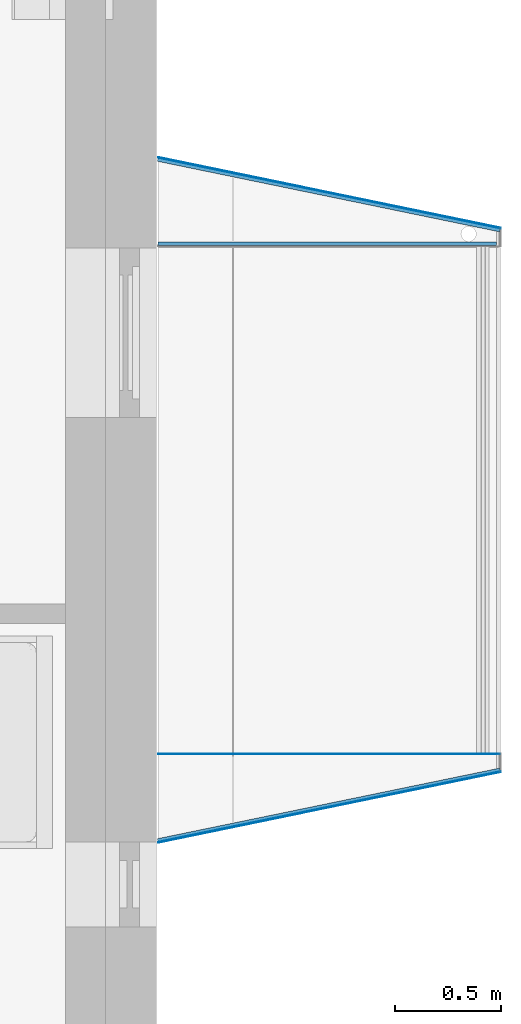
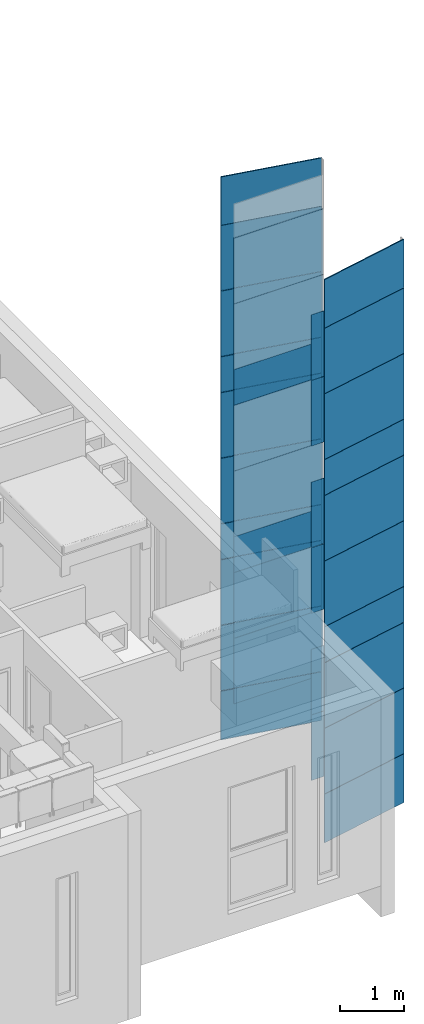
# One storey, part 12 of 125: 54 building element parts, 4 elements without a shape of their own.
"""IFC2X3 building model written with IfcOpenShell, lengths in millimetres."""

from ifc_helpers import new_model, entity, si_unit, converted_unit, direction, frame, frame_2d, origin, place, context, subcontext, project, spatial, polyline, rectangle, outline, extrude, material, type_object, element, aggregate, save


model = new_model("IFC2X3")

# Units and contexts
model_context = context("Model", 3, precision=0.01, world=origin(), true_north=direction((6.123233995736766e-17, 1.0)))
plan_context = context("Plan", 3, precision=0.01, world=origin(), true_north=direction((6.123233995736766e-17, 1.0)))
body_context = subcontext(model_context, "Body", "Model", "MODEL_VIEW")
ifc_project = project(units=[si_unit("LENGTHUNIT", "METRE", prefix="MILLI"), converted_unit("PLANEANGLEUNIT", "DEGREE", entity("IfcPlaneAngleMeasure", 0.017453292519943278), si_unit("PLANEANGLEUNIT", "RADIAN"), dimensions=[0, 0, 0, 0, 0, 0, 0]), si_unit("AREAUNIT", "SQUARE_METRE")], contexts=[model_context, plan_context])

# Site, building, storey
site_placement = place(None, origin())
site = spatial("IfcSite", under=ifc_project, at=site_placement, Name="Default", CompositionType="ELEMENT")
building_placement = place(site_placement, origin())
building = spatial("IfcBuilding", under=site, at=building_placement, CompositionType="ELEMENT")
storey_placement = place(building_placement, frame((0.0, 0.0, 3125.0)))
storey = spatial("IfcBuildingStorey", under=building, at=storey_placement, Name="2K", CompositionType="ELEMENT", Elevation=3125.0)

# Wall, building element parts
wall_type = type_object("IfcWallType", Name="Basic Wall:VS-komposiit", PredefinedType="STANDARD")
wall_1_placement = place(storey_placement, frame((17335.980173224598, 5767.4921026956, -1010.0), z_axis=(0.0, 0.0, 1.0), x_axis=(0.9793890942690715, -0.20198267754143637, 0.0)))
wall_1 = element("IfcWall", 1, at=wall_1_placement, inside=storey, type_object=wall_type, Name="Basic Wall:VS-komposiit", ObjectType="Basic Wall:VS-komposiit")
ifc_material_1 = material(Name="_K. Välisviimistlus. Alumiinium-komposiitplaat")
building_element_part_1_placement = place(wall_1_placement, origin())
building_element_part_1 = element("IfcBuildingElementPart", 2, at=building_element_part_1_placement, material=ifc_material_1, Name="Part", context=body_context, shape_type="SweptSolid", body=[
    extrude(outline(polyline([(-168.51404487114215, -807.2019826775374), (-164.4298662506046, -807.2019826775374), (168.4307337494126, 806.7980173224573), (164.5131773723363, 807.6059480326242), (-168.51404487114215, -807.2019826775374)])), frame((824.1892700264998, 8.0, 0.0), z_axis=(0.0, 0.0, 1.0), x_axis=(-0.20198267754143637, 0.9793890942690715, 0.0)), (0.0, 0.0, 1.0), 922.4999999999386),
])
ifc_material_2 = material(Name="_K. Õhk. Roov. Fassaadikatte alusroov. Horisontaalne. 25 mm")
building_element_part_2_placement = place(wall_1_placement, origin())
building_element_part_2 = element("IfcBuildingElementPart", 3, at=building_element_part_2_placement, material=ifc_material_2, Name="Part", context=body_context, shape_type="SweptSolid", body=[
    extrude(outline(polyline([(-174.43612393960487, -806.2118960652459), (-158.09940945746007, -806.2118960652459), (174.10287945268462, 804.5960346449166), (158.43265394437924, 807.8277574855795), (-174.43612393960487, -806.2118960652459)])), frame((823.1783473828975, -2.0, 0.0), z_axis=(0.0, 0.0, 1.0), x_axis=(-0.20198267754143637, 0.9793890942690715, 0.0)), (0.0, 0.0, 1.0), 922.4999999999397),
])
building_element_part_3_placement = place(wall_1_placement, origin())
building_element_part_3 = element("IfcBuildingElementPart", 4, at=building_element_part_3_placement, material=ifc_material_2, Name="Part", context=body_context, shape_type="SweptSolid", body=[
    extrude(outline(polyline([(-174.43612393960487, -806.2118960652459), (-158.09940945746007, -806.2118960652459), (174.10287945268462, 804.5960346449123), (158.43265394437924, 807.8277574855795), (-174.43612393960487, -806.2118960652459)])), frame((823.1783473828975, -2.0, 8512.499999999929), z_axis=(0.0, 0.0, 1.0), x_axis=(-0.20198267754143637, 0.9793890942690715, 0.0)), (0.0, 0.0, 1.0), 1240.0000000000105),
])
building_element_part_4_placement = place(wall_1_placement, origin())
building_element_part_4 = element("IfcBuildingElementPart", 5, at=building_element_part_4_placement, material=ifc_material_2, Name="Part", context=body_context, shape_type="SweptSolid", body=[
    extrude(outline(polyline([(-174.43612393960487, -806.2118960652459), (-158.09940945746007, -806.2118960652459), (174.10287945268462, 804.5960346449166), (158.43265394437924, 807.8277574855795), (-174.43612393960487, -806.2118960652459)])), frame((823.1783473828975, -2.0, 9757.499999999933), z_axis=(0.0, 0.0, 1.0), x_axis=(-0.20198267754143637, 0.9793890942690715, 0.0)), (0.0, 0.0, 1.0), 917.5000000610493),
])
building_element_part_5_placement = place(wall_1_placement, origin())
building_element_part_5 = element("IfcBuildingElementPart", 6, at=building_element_part_5_placement, material=ifc_material_2, Name="Part", context=body_context, shape_type="SweptSolid", body=[
    extrude(outline(polyline([(-174.43612393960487, -806.2118960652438), (-158.09940945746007, -806.2118960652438), (174.10287945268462, 804.5960346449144), (158.43265394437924, 807.8277574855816), (-174.43612393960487, -806.2118960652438)])), frame((823.1783473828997, -2.0, 6587.499999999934), z_axis=(0.0, 0.0, 1.0), x_axis=(-0.20198267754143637, 0.9793890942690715, 0.0)), (0.0, 0.0, 1.0), 675.0000000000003),
])
building_element_part_6_placement = place(wall_1_placement, origin())
building_element_part_6 = element("IfcBuildingElementPart", 7, at=building_element_part_6_placement, material=ifc_material_2, Name="Part", context=body_context, shape_type="SweptSolid", body=[
    extrude(outline(polyline([(-174.43612393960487, -806.2118960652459), (-158.09940945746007, -806.2118960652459), (174.10287945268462, 804.5960346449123), (158.43265394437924, 807.8277574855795), (-174.43612393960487, -806.2118960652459)])), frame((823.1783473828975, -2.0, 7267.499999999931), z_axis=(0.0, 0.0, 1.0), x_axis=(-0.20198267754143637, 0.9793890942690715, 0.0)), (0.0, 0.0, 1.0), 1240.0000000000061),
])
building_element_part_7_placement = place(wall_1_placement, origin())
building_element_part_7 = element("IfcBuildingElementPart", 8, at=building_element_part_7_placement, material=ifc_material_2, Name="Part", context=body_context, shape_type="SweptSolid", body=[
    extrude(outline(polyline([(-174.43612393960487, -806.2118960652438), (-158.099409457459, -806.2118960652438), (174.10287945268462, 804.5960346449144), (158.43265394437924, 807.8277574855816), (-174.43612393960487, -806.2118960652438)])), frame((823.1783473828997, -2.0, 5342.499999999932), z_axis=(0.0, 0.0, 1.0), x_axis=(-0.20198267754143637, 0.9793890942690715, 0.0)), (0.0, 0.0, 1.0), 1240.000000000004),
])
building_element_part_8_placement = place(wall_1_placement, origin())
building_element_part_8 = element("IfcBuildingElementPart", 9, at=building_element_part_8_placement, material=ifc_material_2, Name="Part", context=body_context, shape_type="SweptSolid", body=[
    extrude(outline(polyline([(-174.43612393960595, -806.2118960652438), (-158.09940945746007, -806.2118960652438), (174.10287945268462, 804.5960346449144), (158.43265394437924, 807.8277574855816), (-174.43612393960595, -806.2118960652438)])), frame((823.1783473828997, -2.0, 927.4999999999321), z_axis=(0.0, 0.0, 1.0), x_axis=(-0.20198267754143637, 0.9793890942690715, 0.0)), (0.0, 0.0, 1.0), 1240.0000000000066),
])
building_element_part_9_placement = place(wall_1_placement, origin())
building_element_part_9 = element("IfcBuildingElementPart", 10, at=building_element_part_9_placement, material=ifc_material_2, Name="Part", context=body_context, shape_type="SweptSolid", body=[
    extrude(outline(polyline([(-174.43612393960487, -806.2118960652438), (-158.09940945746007, -806.2118960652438), (174.10287945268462, 804.5960346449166), (158.43265394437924, 807.8277574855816), (-174.43612393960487, -806.2118960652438)])), frame((823.1783473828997, -2.0, 2172.499999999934), z_axis=(0.0, 0.0, 1.0), x_axis=(-0.20198267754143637, 0.9793890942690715, 0.0)), (0.0, 0.0, 1.0), 1240.000000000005),
])
building_element_part_10_placement = place(wall_1_placement, origin())
building_element_part_10 = element("IfcBuildingElementPart", 11, at=building_element_part_10_placement, material=ifc_material_2, Name="Part", context=body_context, shape_type="SweptSolid", body=[
    extrude(outline(polyline([(-174.43612393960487, -806.2118960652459), (-158.09940945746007, -806.2118960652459), (174.10287945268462, 804.5960346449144), (158.43265394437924, 807.8277574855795), (-174.43612393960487, -806.2118960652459)])), frame((823.1783473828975, -2.0, 4097.499999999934), z_axis=(0.0, 0.0, 1.0), x_axis=(-0.20198267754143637, 0.9793890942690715, 0.0)), (0.0, 0.0, 1.0), 1240.000000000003),
])
building_element_part_11_placement = place(wall_1_placement, origin())
building_element_part_11 = element("IfcBuildingElementPart", 12, at=building_element_part_11_placement, material=ifc_material_2, Name="Part", context=body_context, shape_type="SweptSolid", body=[
    extrude(outline(polyline([(-174.43612393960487, -806.2118960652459), (-158.09940945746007, -806.2118960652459), (174.10287945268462, 804.5960346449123), (158.43265394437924, 807.8277574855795), (-174.43612393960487, -806.2118960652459)])), frame((823.1783473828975, -2.0, 3417.4999999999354), z_axis=(0.0, 0.0, 1.0), x_axis=(-0.20198267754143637, 0.9793890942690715, 0.0)), (0.0, 0.0, 1.0), 675.0000000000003),
])
building_element_part_12_placement = place(wall_1_placement, origin())
building_element_part_12 = element("IfcBuildingElementPart", 13, at=building_element_part_12_placement, material=ifc_material_1, Name="Part", context=body_context, shape_type="SweptSolid", body=[
    extrude(outline(polyline([(-168.51404487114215, -807.2019826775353), (-164.4298662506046, -807.2019826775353), (168.4307337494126, 806.7980173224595), (164.51317737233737, 807.6059480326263), (-168.51404487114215, -807.2019826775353)])), frame((824.189270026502, 8.0, 8512.499999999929), z_axis=(0.0, 0.0, 1.0), x_axis=(-0.20198267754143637, 0.9793890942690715, 0.0)), (0.0, 0.0, 1.0), 1240.0000000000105),
])
building_element_part_13_placement = place(wall_1_placement, origin())
building_element_part_13 = element("IfcBuildingElementPart", 14, at=building_element_part_13_placement, material=ifc_material_1, Name="Part", context=body_context, shape_type="SweptSolid", body=[
    extrude(outline(polyline([(-168.51404487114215, -807.2019826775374), (-164.4298662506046, -807.2019826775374), (168.4307337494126, 806.7980173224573), (164.5131773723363, 807.6059480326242), (-168.51404487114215, -807.2019826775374)])), frame((824.1892700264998, 8.0, 9757.499999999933), z_axis=(0.0, 0.0, 1.0), x_axis=(-0.20198267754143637, 0.9793890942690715, 0.0)), (0.0, 0.0, 1.0), 917.5000000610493),
])
building_element_part_14_placement = place(wall_1_placement, origin())
building_element_part_14 = element("IfcBuildingElementPart", 15, at=building_element_part_14_placement, material=ifc_material_1, Name="Part", context=body_context, shape_type="SweptSolid", body=[
    extrude(outline(polyline([(-168.51404487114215, -807.2019826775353), (-164.4298662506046, -807.2019826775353), (168.43073374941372, 806.7980173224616), (164.51317737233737, 807.6059480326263), (-168.51404487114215, -807.2019826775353)])), frame((824.189270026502, 8.0, 6587.499999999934), z_axis=(0.0, 0.0, 1.0), x_axis=(-0.20198267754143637, 0.9793890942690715, 0.0)), (0.0, 0.0, 1.0), 675.0000000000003),
])
building_element_part_15_placement = place(wall_1_placement, origin())
building_element_part_15 = element("IfcBuildingElementPart", 16, at=building_element_part_15_placement, material=ifc_material_1, Name="Part", context=body_context, shape_type="SweptSolid", body=[
    extrude(outline(polyline([(-168.51404487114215, -807.2019826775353), (-164.4298662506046, -807.2019826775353), (168.4307337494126, 806.7980173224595), (164.51317737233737, 807.6059480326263), (-168.51404487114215, -807.2019826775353)])), frame((824.189270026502, 8.0, 7267.499999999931), z_axis=(0.0, 0.0, 1.0), x_axis=(-0.20198267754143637, 0.9793890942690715, 0.0)), (0.0, 0.0, 1.0), 1240.0000000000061),
])
building_element_part_16_placement = place(wall_1_placement, origin())
building_element_part_16 = element("IfcBuildingElementPart", 17, at=building_element_part_16_placement, material=ifc_material_1, Name="Part", context=body_context, shape_type="SweptSolid", body=[
    extrude(outline(polyline([(-168.51404487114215, -807.2019826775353), (-164.4298662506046, -807.2019826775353), (168.4307337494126, 806.7980173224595), (164.51317737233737, 807.6059480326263), (-168.51404487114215, -807.2019826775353)])), frame((824.189270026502, 8.0, 5342.499999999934), z_axis=(0.0, 0.0, 1.0), x_axis=(-0.20198267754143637, 0.9793890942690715, 0.0)), (0.0, 0.0, 1.0), 1240.000000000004),
])
building_element_part_17_placement = place(wall_1_placement, origin())
building_element_part_17 = element("IfcBuildingElementPart", 18, at=building_element_part_17_placement, material=ifc_material_1, Name="Part", context=body_context, shape_type="SweptSolid", body=[
    extrude(outline(polyline([(-168.51404487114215, -807.2019826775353), (-164.4298662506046, -807.2019826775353), (168.4307337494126, 806.7980173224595), (164.51317737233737, 807.6059480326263), (-168.51404487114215, -807.2019826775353)])), frame((824.189270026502, 8.0, 927.4999999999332), z_axis=(0.0, 0.0, 1.0), x_axis=(-0.20198267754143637, 0.9793890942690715, 0.0)), (0.0, 0.0, 1.0), 1240.0000000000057),
])
building_element_part_18_placement = place(wall_1_placement, origin())
building_element_part_18 = element("IfcBuildingElementPart", 19, at=building_element_part_18_placement, material=ifc_material_1, Name="Part", context=body_context, shape_type="SweptSolid", body=[
    extrude(outline(polyline([(-168.51404487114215, -807.2019826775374), (-164.4298662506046, -807.2019826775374), (168.4307337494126, 806.7980173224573), (164.51317737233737, 807.6059480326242), (-168.51404487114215, -807.2019826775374)])), frame((824.1892700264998, 8.0, 2172.499999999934), z_axis=(0.0, 0.0, 1.0), x_axis=(-0.20198267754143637, 0.9793890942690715, 0.0)), (0.0, 0.0, 1.0), 1240.000000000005),
])
building_element_part_19_placement = place(wall_1_placement, origin())
building_element_part_19 = element("IfcBuildingElementPart", 20, at=building_element_part_19_placement, material=ifc_material_1, Name="Part", context=body_context, shape_type="SweptSolid", body=[
    extrude(outline(polyline([(-168.51404487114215, -807.2019826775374), (-164.4298662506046, -807.2019826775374), (168.4307337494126, 806.7980173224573), (164.51317737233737, 807.6059480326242), (-168.51404487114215, -807.2019826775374)])), frame((824.1892700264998, 8.0, 4097.499999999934), z_axis=(0.0, 0.0, 1.0), x_axis=(-0.20198267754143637, 0.9793890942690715, 0.0)), (0.0, 0.0, 1.0), 1240.000000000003),
])
building_element_part_20_placement = place(wall_1_placement, origin())
building_element_part_20 = element("IfcBuildingElementPart", 21, at=building_element_part_20_placement, material=ifc_material_1, Name="Part", context=body_context, shape_type="SweptSolid", body=[
    extrude(outline(polyline([(-168.51404487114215, -807.2019826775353), (-164.4298662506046, -807.2019826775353), (168.4307337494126, 806.7980173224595), (164.51317737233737, 807.6059480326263), (-168.51404487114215, -807.2019826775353)])), frame((824.189270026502, 8.0, 3417.4999999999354), z_axis=(0.0, 0.0, 1.0), x_axis=(-0.20198267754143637, 0.9793890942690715, 0.0)), (0.0, 0.0, 1.0), 675.0000000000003),
])
aggregate(wall_1, [building_element_part_1, building_element_part_2, building_element_part_3, building_element_part_4, building_element_part_5, building_element_part_6, building_element_part_7, building_element_part_8, building_element_part_9, building_element_part_10, building_element_part_11, building_element_part_12, building_element_part_13, building_element_part_14, building_element_part_15, building_element_part_16, building_element_part_17, building_element_part_18, building_element_part_19, building_element_part_20])

wall_2_placement = place(storey_placement, frame((18932.0, 5366.353411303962, -1010.0), z_axis=(0.0, 0.0, 1.0), x_axis=(-1.0, 0.0, 0.0)))
wall_2 = element("IfcWall", 22, at=wall_2_placement, inside=storey, type_object=wall_type, Name="Basic Wall:VS-komposiit", ObjectType="Basic Wall:VS-komposiit")
building_element_part_21_placement = place(wall_2_placement, origin())
building_element_part_21 = element("IfcBuildingElementPart", 23, at=building_element_part_21_placement, material=ifc_material_2, Name="Part", context=body_context, shape_type="SweptSolid", body=[
    extrude(rectangle(XDim=15.999999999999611, YDim=1593.999999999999, at=frame_2d((-5.409006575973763e-13, -1.0800249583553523e-12), x_axis=(1.0, 0.0))), frame((797.0, -2.0, 7267.4999999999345), z_axis=(0.0, 0.0, 1.0), x_axis=(0.0, 1.0, 0.0)), (0.0, 0.0, 1.0), 1240.000000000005),
])
building_element_part_22_placement = place(wall_2_placement, origin())
building_element_part_22 = element("IfcBuildingElementPart", 24, at=building_element_part_22_placement, material=ifc_material_2, Name="Part", context=body_context, shape_type="SweptSolid", body=[
    extrude(rectangle(XDim=15.999999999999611, YDim=1593.999999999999, at=frame_2d((-5.409006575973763e-13, -1.0800249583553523e-12), x_axis=(1.0, 0.0))), frame((797.0, -2.0, 8512.499999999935), z_axis=(0.0, 0.0, 1.0), x_axis=(0.0, 1.0, 0.0)), (0.0, 0.0, 1.0), 1240.0000000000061),
])
building_element_part_23_placement = place(wall_2_placement, origin())
building_element_part_23 = element("IfcBuildingElementPart", 25, at=building_element_part_23_placement, material=ifc_material_2, Name="Part", context=body_context, shape_type="SweptSolid", body=[
    extrude(rectangle(XDim=15.999999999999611, YDim=1593.999999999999, at=frame_2d((-5.409006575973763e-13, -1.0800249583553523e-12), x_axis=(1.0, 0.0))), frame((797.0, -2.0, 6587.499999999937), z_axis=(0.0, 0.0, 1.0), x_axis=(0.0, 1.0, 0.0)), (0.0, 0.0, 1.0), 675.0000000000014),
])
building_element_part_24_placement = place(wall_2_placement, origin())
building_element_part_24 = element("IfcBuildingElementPart", 26, at=building_element_part_24_placement, material=ifc_material_2, Name="Part", context=body_context, shape_type="SweptSolid", body=[
    extrude(rectangle(XDim=15.999999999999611, YDim=1593.999999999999, at=frame_2d((-5.409006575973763e-13, -1.0800249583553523e-12), x_axis=(1.0, 0.0))), frame((797.0, -2.0, 5342.499999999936), z_axis=(0.0, 0.0, 1.0), x_axis=(0.0, 1.0, 0.0)), (0.0, 0.0, 1.0), 1240.000000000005),
])
building_element_part_25_placement = place(wall_2_placement, origin())
building_element_part_25 = element("IfcBuildingElementPart", 27, at=building_element_part_25_placement, material=ifc_material_2, Name="Part", context=body_context, shape_type="SweptSolid", body=[
    extrude(rectangle(XDim=16.000000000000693, YDim=1593.999999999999, at=frame_2d((-5.409006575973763e-13, -1.0800249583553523e-12), x_axis=(1.0, 0.0))), frame((797.0, -2.0, 4097.4999999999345), z_axis=(0.0, 0.0, 1.0), x_axis=(0.0, 1.0, 0.0)), (0.0, 0.0, 1.0), 1240.0000000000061),
])
building_element_part_26_placement = place(wall_2_placement, origin())
building_element_part_26 = element("IfcBuildingElementPart", 28, at=building_element_part_26_placement, material=ifc_material_2, Name="Part", context=body_context, shape_type="SweptSolid", body=[
    extrude(rectangle(XDim=15.999999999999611, YDim=1593.999999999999, at=frame_2d((-5.409006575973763e-13, 0.0), x_axis=(1.0, 0.0))), frame((797.0, -2.0, 3417.499999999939), z_axis=(0.0, 0.0, 1.0), x_axis=(0.0, 1.0, 0.0)), (0.0, 0.0, 1.0), 675.0000000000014),
])
building_element_part_27_placement = place(wall_2_placement, origin())
building_element_part_27 = element("IfcBuildingElementPart", 29, at=building_element_part_27_placement, material=ifc_material_2, Name="Part", context=body_context, shape_type="SweptSolid", body=[
    extrude(rectangle(XDim=15.999999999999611, YDim=1593.999999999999, at=frame_2d((-5.409006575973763e-13, -1.0800249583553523e-12), x_axis=(1.0, 0.0))), frame((797.0, -2.0, 927.4999999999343), z_axis=(0.0, 0.0, 1.0), x_axis=(0.0, 1.0, 0.0)), (0.0, 0.0, 1.0), 1240.0000000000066),
])
building_element_part_28_placement = place(wall_2_placement, origin())
building_element_part_28 = element("IfcBuildingElementPart", 30, at=building_element_part_28_placement, material=ifc_material_2, Name="Part", context=body_context, shape_type="SweptSolid", body=[
    extrude(rectangle(XDim=15.999999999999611, YDim=1594.0000000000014, at=frame_2d((-5.409006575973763e-13, -1.1368683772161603e-12), x_axis=(1.0, 0.0))), frame((797.0, -2.0, 2172.499999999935), z_axis=(0.0, 0.0, 1.0), x_axis=(0.0, 1.0, 0.0)), (0.0, 0.0, 1.0), 1240.0000000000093),
])
aggregate(wall_2, [building_element_part_21, building_element_part_22, building_element_part_23, building_element_part_24, building_element_part_25, building_element_part_26, building_element_part_27, building_element_part_28])

wall_3_placement = place(storey_placement, frame((17335.980173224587, 2555.8478968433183, -1010.0), z_axis=(0.0, 0.0, 1.0), x_axis=(0.979389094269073, 0.20198267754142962, 0.0)))
wall_3 = element("IfcWall", 31, at=wall_3_placement, inside=storey, type_object=wall_type, Name="Basic Wall:VS-komposiit", ObjectType="Basic Wall:VS-komposiit")
building_element_part_29_placement = place(wall_3_placement, origin())
building_element_part_29 = element("IfcBuildingElementPart", 32, at=building_element_part_29_placement, material=ifc_material_2, Name="Part", context=body_context, shape_type="SweptSolid", body=[
    extrude(outline(polyline([(158.09940945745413, -806.2118960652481), (174.4361239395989, -806.2118960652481), (-158.43265394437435, 807.8277574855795), (-174.10287945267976, 804.5960346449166), (158.09940945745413, -806.2118960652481)])), frame((823.1783473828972, 2.0, 927.4999999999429), z_axis=(0.0, 0.0, 1.0), x_axis=(0.20198267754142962, 0.979389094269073, 0.0)), (0.0, 0.0, 1.0), 1240.0000000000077),
])
building_element_part_30_placement = place(wall_3_placement, origin())
building_element_part_30 = element("IfcBuildingElementPart", 33, at=building_element_part_30_placement, material=ifc_material_2, Name="Part", context=body_context, shape_type="SweptSolid", body=[
    extrude(outline(polyline([(158.09940945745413, -806.2118960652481), (174.4361239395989, -806.2118960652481), (-158.43265394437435, 807.8277574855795), (-174.1028794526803, 804.5960346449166), (158.09940945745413, -806.2118960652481)])), frame((823.1783473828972, 2.0, 3417.499999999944), z_axis=(0.0, 0.0, 1.0), x_axis=(0.20198267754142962, 0.979389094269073, 0.0)), (0.0, 0.0, 1.0), 675.0000000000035),
])
building_element_part_31_placement = place(wall_3_placement, origin())
building_element_part_31 = element("IfcBuildingElementPart", 34, at=building_element_part_31_placement, material=ifc_material_2, Name="Part", context=body_context, shape_type="SweptSolid", body=[
    extrude(outline(polyline([(158.09940945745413, -806.2118960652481), (174.4361239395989, -806.2118960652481), (-158.43265394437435, 807.8277574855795), (-174.1028794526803, 804.5960346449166), (158.09940945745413, -806.2118960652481)])), frame((823.1783473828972, 2.0, 2172.4999999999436), z_axis=(0.0, 0.0, 1.0), x_axis=(0.20198267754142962, 0.979389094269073, 0.0)), (0.0, 0.0, 1.0), 1240.000000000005),
])
building_element_part_32_placement = place(wall_3_placement, origin())
building_element_part_32 = element("IfcBuildingElementPart", 35, at=building_element_part_32_placement, material=ifc_material_2, Name="Part", context=body_context, shape_type="SweptSolid", body=[
    extrude(outline(polyline([(158.09940945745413, -806.2118960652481), (174.4361239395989, -806.2118960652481), (-158.43265394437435, 807.8277574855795), (-174.1028794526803, 804.5960346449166), (158.09940945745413, -806.2118960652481)])), frame((823.1783473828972, 2.0, 4097.499999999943), z_axis=(0.0, 0.0, 1.0), x_axis=(0.20198267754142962, 0.979389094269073, 0.0)), (0.0, 0.0, 1.0), 1240.000000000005),
])
building_element_part_33_placement = place(wall_3_placement, origin())
building_element_part_33 = element("IfcBuildingElementPart", 36, at=building_element_part_33_placement, material=ifc_material_2, Name="Part", context=body_context, shape_type="SweptSolid", body=[
    extrude(outline(polyline([(158.09940945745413, -806.2118960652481), (174.4361239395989, -806.2118960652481), (-158.43265394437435, 807.8277574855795), (-174.10287945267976, 804.5960346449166), (158.09940945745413, -806.2118960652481)])), frame((823.1783473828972, 2.0, 6587.499999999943), z_axis=(0.0, 0.0, 1.0), x_axis=(0.20198267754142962, 0.979389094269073, 0.0)), (0.0, 0.0, 1.0), 675.0000000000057),
])
building_element_part_34_placement = place(wall_3_placement, origin())
building_element_part_34 = element("IfcBuildingElementPart", 37, at=building_element_part_34_placement, material=ifc_material_2, Name="Part", context=body_context, shape_type="SweptSolid", body=[
    extrude(outline(polyline([(158.09940945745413, -806.2118960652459), (174.43612393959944, -806.2118960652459), (-158.43265394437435, 807.8277574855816), (-174.1028794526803, 804.5960346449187), (158.09940945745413, -806.2118960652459)])), frame((823.1783473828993, 2.0, 5342.499999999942), z_axis=(0.0, 0.0, 1.0), x_axis=(0.20198267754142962, 0.979389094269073, 0.0)), (0.0, 0.0, 1.0), 1240.0000000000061),
])
building_element_part_35_placement = place(wall_3_placement, origin())
building_element_part_35 = element("IfcBuildingElementPart", 38, at=building_element_part_35_placement, material=ifc_material_2, Name="Part", context=body_context, shape_type="SweptSolid", body=[
    extrude(outline(polyline([(158.09940945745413, -806.2118960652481), (174.4361239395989, -806.2118960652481), (-158.43265394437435, 807.8277574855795), (-174.1028794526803, 804.5960346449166), (158.09940945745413, -806.2118960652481)])), frame((823.1783473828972, 2.0, 7267.499999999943), z_axis=(0.0, 0.0, 1.0), x_axis=(0.20198267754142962, 0.979389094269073, 0.0)), (0.0, 0.0, 1.0), 1240.0000000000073),
])
building_element_part_36_placement = place(wall_3_placement, origin())
building_element_part_36 = element("IfcBuildingElementPart", 39, at=building_element_part_36_placement, material=ifc_material_2, Name="Part", context=body_context, shape_type="SweptSolid", body=[
    extrude(outline(polyline([(158.09940945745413, -806.2118960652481), (174.4361239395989, -806.2118960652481), (-158.43265394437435, 807.8277574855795), (-174.10287945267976, 804.5960346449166), (158.09940945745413, -806.2118960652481)])), frame((823.1783473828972, 2.0, 0.0), z_axis=(0.0, 0.0, 1.0), x_axis=(0.20198267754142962, 0.979389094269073, 0.0)), (0.0, 0.0, 1.0), 922.49999999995),
])
building_element_part_37_placement = place(wall_3_placement, origin())
building_element_part_37 = element("IfcBuildingElementPart", 40, at=building_element_part_37_placement, material=ifc_material_1, Name="Part", context=body_context, shape_type="SweptSolid", body=[
    extrude(outline(polyline([(164.42986625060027, -807.2019826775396), (168.51404487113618, -807.2019826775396), (-164.5131773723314, 807.6059480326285), (-168.43073374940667, 806.7980173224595), (164.42986625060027, -807.2019826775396)])), frame((824.1892700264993, -8.0, 927.4999999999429), z_axis=(0.0, 0.0, 1.0), x_axis=(0.20198267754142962, 0.979389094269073, 0.0)), (0.0, 0.0, 1.0), 1240.0000000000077),
])
building_element_part_38_placement = place(wall_3_placement, origin())
building_element_part_38 = element("IfcBuildingElementPart", 41, at=building_element_part_38_placement, material=ifc_material_1, Name="Part", context=body_context, shape_type="SweptSolid", body=[
    extrude(outline(polyline([(164.4298662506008, -807.2019826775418), (168.51404487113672, -807.2019826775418), (-164.51317737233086, 807.6059480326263), (-168.43073374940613, 806.7980173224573), (164.4298662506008, -807.2019826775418)])), frame((824.1892700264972, -8.0, 3417.499999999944), z_axis=(0.0, 0.0, 1.0), x_axis=(0.20198267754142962, 0.979389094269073, 0.0)), (0.0, 0.0, 1.0), 675.0000000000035),
])
building_element_part_39_placement = place(wall_3_placement, origin())
building_element_part_39 = element("IfcBuildingElementPart", 42, at=building_element_part_39_placement, material=ifc_material_1, Name="Part", context=body_context, shape_type="SweptSolid", body=[
    extrude(outline(polyline([(164.4298662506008, -807.2019826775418), (168.51404487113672, -807.2019826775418), (-164.51317737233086, 807.6059480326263), (-168.43073374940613, 806.7980173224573), (164.4298662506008, -807.2019826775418)])), frame((824.1892700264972, -8.0, 2172.4999999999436), z_axis=(0.0, 0.0, 1.0), x_axis=(0.20198267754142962, 0.979389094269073, 0.0)), (0.0, 0.0, 1.0), 1240.000000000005),
])
building_element_part_40_placement = place(wall_3_placement, origin())
building_element_part_40 = element("IfcBuildingElementPart", 43, at=building_element_part_40_placement, material=ifc_material_1, Name="Part", context=body_context, shape_type="SweptSolid", body=[
    extrude(outline(polyline([(164.4298662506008, -807.2019826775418), (168.51404487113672, -807.2019826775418), (-164.51317737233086, 807.6059480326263), (-168.43073374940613, 806.7980173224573), (164.4298662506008, -807.2019826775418)])), frame((824.1892700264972, -8.0, 4097.499999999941), z_axis=(0.0, 0.0, 1.0), x_axis=(0.20198267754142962, 0.979389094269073, 0.0)), (0.0, 0.0, 1.0), 1240.0000000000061),
])
building_element_part_41_placement = place(wall_3_placement, origin())
building_element_part_41 = element("IfcBuildingElementPart", 44, at=building_element_part_41_placement, material=ifc_material_1, Name="Part", context=body_context, shape_type="SweptSolid", body=[
    extrude(outline(polyline([(164.42986625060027, -807.2019826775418), (168.51404487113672, -807.2019826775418), (-164.5131773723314, 807.6059480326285), (-168.43073374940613, 806.7980173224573), (164.42986625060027, -807.2019826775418)])), frame((824.1892700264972, -8.0, 6587.499999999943), z_axis=(0.0, 0.0, 1.0), x_axis=(0.20198267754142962, 0.979389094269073, 0.0)), (0.0, 0.0, 1.0), 675.0000000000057),
])
building_element_part_42_placement = place(wall_3_placement, origin())
building_element_part_42 = element("IfcBuildingElementPart", 45, at=building_element_part_42_placement, material=ifc_material_1, Name="Part", context=body_context, shape_type="SweptSolid", body=[
    extrude(outline(polyline([(164.42986625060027, -807.2019826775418), (168.51404487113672, -807.2019826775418), (-164.51317737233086, 807.6059480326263), (-168.43073374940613, 806.7980173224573), (164.42986625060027, -807.2019826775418)])), frame((824.1892700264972, -8.0, 5342.499999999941), z_axis=(0.0, 0.0, 1.0), x_axis=(0.20198267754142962, 0.979389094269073, 0.0)), (0.0, 0.0, 1.0), 1240.0000000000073),
])
building_element_part_43_placement = place(wall_3_placement, origin())
building_element_part_43 = element("IfcBuildingElementPart", 46, at=building_element_part_43_placement, material=ifc_material_1, Name="Part", context=body_context, shape_type="SweptSolid", body=[
    extrude(outline(polyline([(164.4298662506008, -807.2019826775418), (168.51404487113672, -807.2019826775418), (-164.5131773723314, 807.6059480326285), (-168.43073374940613, 806.7980173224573), (164.4298662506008, -807.2019826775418)])), frame((824.1892700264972, -8.0, 7267.499999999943), z_axis=(0.0, 0.0, 1.0), x_axis=(0.20198267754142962, 0.979389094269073, 0.0)), (0.0, 0.0, 1.0), 1240.0000000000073),
])
building_element_part_44_placement = place(wall_3_placement, origin())
building_element_part_44 = element("IfcBuildingElementPart", 47, at=building_element_part_44_placement, material=ifc_material_1, Name="Part", context=body_context, shape_type="SweptSolid", body=[
    extrude(outline(polyline([(164.42986625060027, -807.2019826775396), (168.51404487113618, -807.2019826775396), (-164.5131773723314, 807.6059480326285), (-168.43073374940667, 806.7980173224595), (164.42986625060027, -807.2019826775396)])), frame((824.1892700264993, -8.0, 0.0), z_axis=(0.0, 0.0, 1.0), x_axis=(0.20198267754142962, 0.979389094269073, 0.0)), (0.0, 0.0, 1.0), 922.4999999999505),
])
building_element_part_45_placement = place(wall_3_placement, origin())
building_element_part_45 = element("IfcBuildingElementPart", 48, at=building_element_part_45_placement, material=ifc_material_2, Name="Part", context=body_context, shape_type="SweptSolid", body=[
    extrude(outline(polyline([(158.09940945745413, -806.2118960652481), (174.4361239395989, -806.2118960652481), (-158.43265394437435, 807.8277574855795), (-174.10287945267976, 804.5960346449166), (158.09940945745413, -806.2118960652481)])), frame((823.1783473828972, 2.0, 9757.499999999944), z_axis=(0.0, 0.0, 1.0), x_axis=(0.20198267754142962, 0.979389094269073, 0.0)), (0.0, 0.0, 1.0), 917.5000000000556),
])
building_element_part_46_placement = place(wall_3_placement, origin())
building_element_part_46 = element("IfcBuildingElementPart", 49, at=building_element_part_46_placement, material=ifc_material_2, Name="Part", context=body_context, shape_type="SweptSolid", body=[
    extrude(outline(polyline([(158.09940945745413, -806.2118960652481), (174.4361239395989, -806.2118960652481), (-158.43265394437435, 807.8277574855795), (-174.10287945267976, 804.5960346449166), (158.09940945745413, -806.2118960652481)])), frame((823.1783473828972, 2.0, 8512.499999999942), z_axis=(0.0, 0.0, 1.0), x_axis=(0.20198267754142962, 0.979389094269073, 0.0)), (0.0, 0.0, 1.0), 1240.0000000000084),
])
building_element_part_47_placement = place(wall_3_placement, origin())
building_element_part_47 = element("IfcBuildingElementPart", 50, at=building_element_part_47_placement, material=ifc_material_1, Name="Part", context=body_context, shape_type="SweptSolid", body=[
    extrude(outline(polyline([(164.4298662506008, -807.2019826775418), (168.51404487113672, -807.2019826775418), (-164.51317737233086, 807.6059480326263), (-168.43073374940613, 806.7980173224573), (164.4298662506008, -807.2019826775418)])), frame((824.1892700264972, -8.0, 9757.499999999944), z_axis=(0.0, 0.0, 1.0), x_axis=(0.20198267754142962, 0.979389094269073, 0.0)), (0.0, 0.0, 1.0), 917.5000000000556),
])
building_element_part_48_placement = place(wall_3_placement, origin())
building_element_part_48 = element("IfcBuildingElementPart", 51, at=building_element_part_48_placement, material=ifc_material_1, Name="Part", context=body_context, shape_type="SweptSolid", body=[
    extrude(outline(polyline([(164.4298662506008, -807.2019826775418), (168.51404487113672, -807.2019826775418), (-164.51317737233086, 807.6059480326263), (-168.43073374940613, 806.7980173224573), (164.4298662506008, -807.2019826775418)])), frame((824.1892700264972, -8.0, 8512.499999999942), z_axis=(0.0, 0.0, 1.0), x_axis=(0.20198267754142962, 0.979389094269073, 0.0)), (0.0, 0.0, 1.0), 1240.0000000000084),
])
aggregate(wall_3, [building_element_part_29, building_element_part_30, building_element_part_31, building_element_part_32, building_element_part_33, building_element_part_34, building_element_part_35, building_element_part_36, building_element_part_37, building_element_part_38, building_element_part_39, building_element_part_40, building_element_part_41, building_element_part_42, building_element_part_43, building_element_part_44, building_element_part_45, building_element_part_46, building_element_part_47, building_element_part_48])

wall_4_placement = place(storey_placement, frame((18932.0, 2956.986588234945, -1010.0), z_axis=(0.0, 0.0, 1.0), x_axis=(-1.0, 0.0, 0.0)))
wall_4 = element("IfcWall", 52, at=wall_4_placement, inside=storey, type_object=wall_type, Name="Basic Wall:VS-komposiit", ObjectType="Basic Wall:VS-komposiit")
building_element_part_49_placement = place(wall_4_placement, origin())
building_element_part_49 = element("IfcBuildingElementPart", 53, at=building_element_part_49_placement, material=ifc_material_1, Name="Part", context=body_context, shape_type="SweptSolid", body=[
    extrude(rectangle(XDim=3.999999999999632, YDim=1609.9999999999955, at=frame_2d((-2.7067237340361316e-13, 2.2168933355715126e-12), x_axis=(1.0, 0.0))), frame((789.0, -8.0, 8512.499999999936), z_axis=(0.0, 0.0, 1.0), x_axis=(0.0, 1.0, 0.0)), (0.0, 0.0, 1.0), 1240.0000000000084),
])
building_element_part_50_placement = place(wall_4_placement, origin())
building_element_part_50 = element("IfcBuildingElementPart", 54, at=building_element_part_50_placement, material=ifc_material_1, Name="Part", context=body_context, shape_type="SweptSolid", body=[
    extrude(rectangle(XDim=4.000000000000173, YDim=1609.9999999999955, at=frame_2d((-2.7067237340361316e-13, 1.0800249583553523e-12), x_axis=(1.0, 0.0))), frame((789.0, -8.0, 927.4999999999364), z_axis=(0.0, 0.0, 1.0), x_axis=(0.0, 1.0, 0.0)), (0.0, 0.0, 1.0), 1240.0000000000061),
])
building_element_part_51_placement = place(wall_4_placement, origin())
building_element_part_51 = element("IfcBuildingElementPart", 55, at=building_element_part_51_placement, material=ifc_material_1, Name="Part", context=body_context, shape_type="SweptSolid", body=[
    extrude(rectangle(XDim=3.999999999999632, YDim=1609.9999999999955, at=frame_2d((-2.7067237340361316e-13, 1.0800249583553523e-12), x_axis=(1.0, 0.0))), frame((789.0, -8.0, 2172.4999999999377), z_axis=(0.0, 0.0, 1.0), x_axis=(0.0, 1.0, 0.0)), (0.0, 0.0, 1.0), 1240.0000000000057),
])
building_element_part_52_placement = place(wall_4_placement, origin())
building_element_part_52 = element("IfcBuildingElementPart", 56, at=building_element_part_52_placement, material=ifc_material_1, Name="Part", context=body_context, shape_type="SweptSolid", body=[
    extrude(rectangle(XDim=3.999999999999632, YDim=1609.9999999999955, at=frame_2d((-2.7067237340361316e-13, 2.2168933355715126e-12), x_axis=(1.0, 0.0))), frame((789.0, -8.0, 4097.499999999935), z_axis=(0.0, 0.0, 1.0), x_axis=(0.0, 1.0, 0.0)), (0.0, 0.0, 1.0), 1240.000000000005),
])
building_element_part_53_placement = place(wall_4_placement, origin())
building_element_part_53 = element("IfcBuildingElementPart", 57, at=building_element_part_53_placement, material=ifc_material_1, Name="Part", context=body_context, shape_type="SweptSolid", body=[
    extrude(rectangle(XDim=3.9999999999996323, YDim=1609.9999999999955, at=frame_2d((2.7067237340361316e-13, 0.0), x_axis=(1.0, 0.0))), frame((789.0, -8.0, 5342.499999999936), z_axis=(0.0, 0.0, 1.0), x_axis=(0.0, 1.0, 0.0)), (0.0, 0.0, 1.0), 1240.000000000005),
])
building_element_part_54_placement = place(wall_4_placement, origin())
building_element_part_54 = element("IfcBuildingElementPart", 58, at=building_element_part_54_placement, material=ifc_material_1, Name="Part", context=body_context, shape_type="SweptSolid", body=[
    extrude(rectangle(XDim=3.9999999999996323, YDim=1609.9999999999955, at=frame_2d((2.7067237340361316e-13, 1.0800249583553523e-12), x_axis=(1.0, 0.0))), frame((789.0, -8.0, 7267.499999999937), z_axis=(0.0, 0.0, 1.0), x_axis=(0.0, 1.0, 0.0)), (0.0, 0.0, 1.0), 1240.0000000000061),
])
aggregate(wall_4, [building_element_part_49, building_element_part_50, building_element_part_51, building_element_part_52, building_element_part_53, building_element_part_54])

save(model, "model.ifc")
